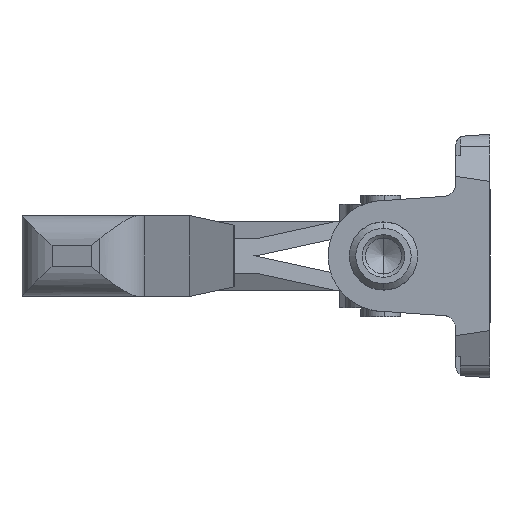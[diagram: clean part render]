
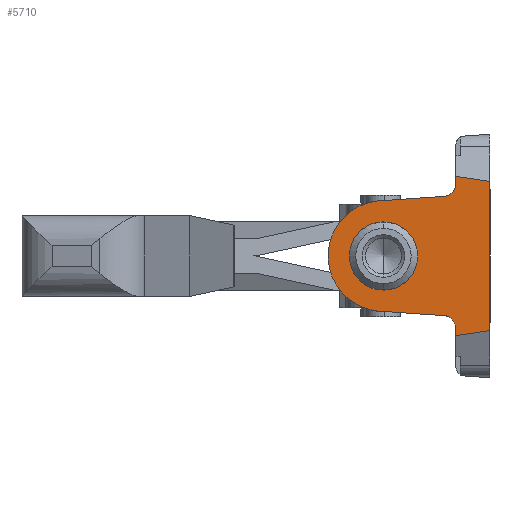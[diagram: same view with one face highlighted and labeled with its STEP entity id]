
A CAD part, left-side view. The second image highlights one B-rep face of the part: STEP entity #5710.
In plain terms, the highlighted planar face has unit normal (-0.998, 0.071, 0).
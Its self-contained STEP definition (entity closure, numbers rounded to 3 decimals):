
#135 = EDGE_CURVE ( 'NONE', #5268, #390, #4397, .T. ) ;
#164 = CARTESIAN_POINT ( 'NONE',  ( 0.568, 8., 16.986 ) ) ;
#223 = VERTEX_POINT ( 'NONE', #6784 ) ;
#348 =( BOUNDED_CURVE ( )  B_SPLINE_CURVE ( 3, ( #963, #4647, #1078, #1673 ),
 .UNSPECIFIED., .F., .T. ) 
 B_SPLINE_CURVE_WITH_KNOTS ( ( 4, 4 ),
 ( 1.571, 4.712 ),
 .UNSPECIFIED. ) 
 CURVE ( )  GEOMETRIC_REPRESENTATION_ITEM ( )  RATIONAL_B_SPLINE_CURVE ( ( 1., 0.333, 0.333, 1. ) ) 
 REPRESENTATION_ITEM ( '' )  );
#350 = CARTESIAN_POINT ( 'NONE',  ( 1.776, 25., 8. ) ) ;
#384 = EDGE_CURVE ( 'NONE', #390, #6521, #348, .T. ) ;
#390 = VERTEX_POINT ( 'NONE', #2284 ) ;
#451 = ORIENTED_EDGE ( 'NONE', *, *, #7123, .T. ) ;
#482 = CARTESIAN_POINT ( 'NONE',  ( 0.766, 10.791, 13.994 ) ) ;
#560 = VERTEX_POINT ( 'NONE', #2605 ) ;
#562 = CARTESIAN_POINT ( 'NONE',  ( 0.568, 8., -16.986 ) ) ;
#626 = DIRECTION ( 'NONE',  ( 0.07, 0.986, 0.15 ) ) ;
#687 = DIRECTION ( 'NONE',  ( -0.07, -0.986, 0.15 ) ) ;
#875 = CARTESIAN_POINT ( 'NONE',  ( 0.766, 10.791, -13.994 ) ) ;
#937 = LINE ( 'NONE', #2730, #6353 ) ;
#963 = CARTESIAN_POINT ( 'NONE',  ( 1.776, 25., 13. ) ) ;
#969 = CARTESIAN_POINT ( 'NONE',  ( 1.776, 25., -8. ) ) ;
#1078 = CARTESIAN_POINT ( 'NONE',  ( 3.622, 51., -13. ) ) ;
#1159 = EDGE_CURVE ( 'NONE', #2170, #1905, #4674, .T. ) ;
#1191 = CARTESIAN_POINT ( 'NONE',  ( 0.568, 8., -18.718 ) ) ;
#1327 = CARTESIAN_POINT ( 'NONE',  ( 0.568, 8., -18.718 ) ) ;
#1363 = CARTESIAN_POINT ( 'NONE',  ( 0.568, 8., 15.325 ) ) ;
#1419 =( BOUNDED_CURVE ( )  B_SPLINE_CURVE ( 3, ( #350, #5222, #6443, #969 ),
 .UNSPECIFIED., .F., .F. ) 
 B_SPLINE_CURVE_WITH_KNOTS ( ( 4, 4 ),
 ( 4.712, 7.854 ),
 .UNSPECIFIED. ) 
 CURVE ( )  GEOMETRIC_REPRESENTATION_ITEM ( )  RATIONAL_B_SPLINE_CURVE ( ( 1., 0.333, 0.333, 1. ) ) 
 REPRESENTATION_ITEM ( '' )  );
#1473 = CARTESIAN_POINT ( 'NONE',  ( 0.649, 9.133, 14.11 ) ) ;
#1511 = EDGE_CURVE ( 'NONE', #3900, #560, #3106, .T. ) ;
#1577 = EDGE_CURVE ( 'NONE', #3900, #5268, #2485, .T. ) ;
#1673 = CARTESIAN_POINT ( 'NONE',  ( 1.776, 25., -13. ) ) ;
#1790 = EDGE_CURVE ( 'NONE', #1905, #2170, #1419, .T. ) ;
#1814 = LINE ( 'NONE', #3047, #3031 ) ;
#1905 = VERTEX_POINT ( 'NONE', #3638 ) ;
#2058 = FACE_OUTER_BOUND ( 'NONE', #7686, .T. ) ;
#2066 = CARTESIAN_POINT ( 'NONE',  ( 0.568, 8., -15.325 ) ) ;
#2094 = CARTESIAN_POINT ( 'NONE',  ( 0., 0., 40. ) ) ;
#2170 = VERTEX_POINT ( 'NONE', #4875 ) ;
#2214 = ORIENTED_EDGE ( 'NONE', *, *, #1159, .T. ) ;
#2284 = CARTESIAN_POINT ( 'NONE',  ( 1.776, 25., 13. ) ) ;
#2295 = DIRECTION ( 'NONE',  ( -0.071, -0.995, -0.07 ) ) ;
#2411 = VECTOR ( 'NONE', #5004, 1000. ) ;
#2425 = VERTEX_POINT ( 'NONE', #2804 ) ;
#2433 = VERTEX_POINT ( 'NONE', #5179 ) ;
#2485 =( BOUNDED_CURVE ( )  B_SPLINE_CURVE ( 3, ( #164, #1363, #1473, #5685 ),
 .UNSPECIFIED., .F., .T. ) 
 B_SPLINE_CURVE_WITH_KNOTS ( ( 4, 4 ),
 ( 0., 1.501 ),
 .UNSPECIFIED. ) 
 CURVE ( )  GEOMETRIC_REPRESENTATION_ITEM ( )  RATIONAL_B_SPLINE_CURVE ( ( 1., 0.821, 0.821, 1. ) ) 
 REPRESENTATION_ITEM ( '' )  );
#2542 = VECTOR ( 'NONE', #7509, 1000. ) ;
#2605 = CARTESIAN_POINT ( 'NONE',  ( 0.568, 8., 18.718 ) ) ;
#2615 = VECTOR ( 'NONE', #6741, 1000. ) ;
#2661 = ORIENTED_EDGE ( 'NONE', *, *, #135, .T. ) ;
#2730 = CARTESIAN_POINT ( 'NONE',  ( 1.776, 25., -13. ) ) ;
#2804 = CARTESIAN_POINT ( 'NONE',  ( 0.568, 8., -16.986 ) ) ;
#3027 = LINE ( 'NONE', #1327, #7629 ) ;
#3031 = VECTOR ( 'NONE', #626, 1000. ) ;
#3047 = CARTESIAN_POINT ( 'NONE',  ( 0., 0., 17.5 ) ) ;
#3064 = EDGE_CURVE ( 'NONE', #6737, #223, #3027, .T. ) ;
#3095 = EDGE_CURVE ( 'NONE', #6737, #2425, #6780, .T. ) ;
#3106 = LINE ( 'NONE', #4320, #2615 ) ;
#3176 = DIRECTION ( 'NONE',  ( -0.997, 0.071, 0. ) ) ;
#3263 = AXIS2_PLACEMENT_3D ( 'NONE', #2094, #3176, #6964 ) ;
#3455 = EDGE_LOOP ( 'NONE', ( #7156, #2214 ) ) ;
#3525 = ORIENTED_EDGE ( 'NONE', *, *, #7587, .T. ) ;
#3570 = CARTESIAN_POINT ( 'NONE',  ( 1.776, 25., 8. ) ) ;
#3596 = VECTOR ( 'NONE', #4285, 1000. ) ;
#3638 = CARTESIAN_POINT ( 'NONE',  ( 1.776, 25., 8. ) ) ;
#3900 = VERTEX_POINT ( 'NONE', #4868 ) ;
#4285 = DIRECTION ( 'NONE',  ( 0.071, 0.995, -0.07 ) ) ;
#4320 = CARTESIAN_POINT ( 'NONE',  ( 0.568, 8., 26.145 ) ) ;
#4387 = ORIENTED_EDGE ( 'NONE', *, *, #3064, .T. ) ;
#4397 = LINE ( 'NONE', #7354, #3596 ) ;
#4647 = CARTESIAN_POINT ( 'NONE',  ( 3.622, 51., 13. ) ) ;
#4674 =( BOUNDED_CURVE ( )  B_SPLINE_CURVE ( 3, ( #7383, #6687, #7254, #3570 ),
 .UNSPECIFIED., .F., .F. ) 
 B_SPLINE_CURVE_WITH_KNOTS ( ( 4, 4 ),
 ( 1.571, 4.712 ),
 .UNSPECIFIED. ) 
 CURVE ( )  GEOMETRIC_REPRESENTATION_ITEM ( )  RATIONAL_B_SPLINE_CURVE ( ( 1., 0.333, 0.333, 1. ) ) 
 REPRESENTATION_ITEM ( '' )  );
#4868 = CARTESIAN_POINT ( 'NONE',  ( 0.568, 8., 16.986 ) ) ;
#4875 = CARTESIAN_POINT ( 'NONE',  ( 1.776, 25., -8. ) ) ;
#5004 = DIRECTION ( 'NONE',  ( 0., 0., 1. ) ) ;
#5179 = CARTESIAN_POINT ( 'NONE',  ( 0., 0., 17.5 ) ) ;
#5206 = CARTESIAN_POINT ( 'NONE',  ( 1.776, 25., -13. ) ) ;
#5222 = CARTESIAN_POINT ( 'NONE',  ( 0.639, 9., 8. ) ) ;
#5268 = VERTEX_POINT ( 'NONE', #482 ) ;
#5466 = EDGE_CURVE ( 'NONE', #7295, #2425, #7175, .T. ) ;
#5479 = ORIENTED_EDGE ( 'NONE', *, *, #1511, .F. ) ;
#5685 = CARTESIAN_POINT ( 'NONE',  ( 0.766, 10.791, 13.994 ) ) ;
#5710 = ADVANCED_FACE ( 'NONE', ( #2058, #6293 ), #7549, .T. ) ;
#5719 = CARTESIAN_POINT ( 'NONE',  ( 0.568, 8., -16.986 ) ) ;
#5760 = CARTESIAN_POINT ( 'NONE',  ( 0.649, 9.133, -14.11 ) ) ;
#6096 = ORIENTED_EDGE ( 'NONE', *, *, #7206, .T. ) ;
#6247 = ORIENTED_EDGE ( 'NONE', *, *, #5466, .T. ) ;
#6293 = FACE_BOUND ( 'NONE', #3455, .T. ) ;
#6353 = VECTOR ( 'NONE', #2295, 1000. ) ;
#6443 = CARTESIAN_POINT ( 'NONE',  ( 0.639, 9., -8. ) ) ;
#6521 = VERTEX_POINT ( 'NONE', #5206 ) ;
#6540 = ORIENTED_EDGE ( 'NONE', *, *, #1577, .T. ) ;
#6678 = CARTESIAN_POINT ( 'NONE',  ( 0.766, 10.791, -13.994 ) ) ;
#6687 = CARTESIAN_POINT ( 'NONE',  ( 2.912, 41., -8. ) ) ;
#6737 = VERTEX_POINT ( 'NONE', #1191 ) ;
#6741 = DIRECTION ( 'NONE',  ( 0., 0., 1. ) ) ;
#6780 = LINE ( 'NONE', #562, #2411 ) ;
#6784 = CARTESIAN_POINT ( 'NONE',  ( 0., 0., -17.5 ) ) ;
#6964 = DIRECTION ( 'NONE',  ( -0.071, -0.997, 0. ) ) ;
#6989 = LINE ( 'NONE', #7576, #2542 ) ;
#7086 = ORIENTED_EDGE ( 'NONE', *, *, #3095, .F. ) ;
#7123 = EDGE_CURVE ( 'NONE', #6521, #7295, #937, .T. ) ;
#7156 = ORIENTED_EDGE ( 'NONE', *, *, #1790, .T. ) ;
#7175 =( BOUNDED_CURVE ( )  B_SPLINE_CURVE ( 3, ( #875, #5760, #2066, #5719 ),
 .UNSPECIFIED., .F., .F. ) 
 B_SPLINE_CURVE_WITH_KNOTS ( ( 4, 4 ),
 ( 4.782, 6.283 ),
 .UNSPECIFIED. ) 
 CURVE ( )  GEOMETRIC_REPRESENTATION_ITEM ( )  RATIONAL_B_SPLINE_CURVE ( ( 1., 0.821, 0.821, 1. ) ) 
 REPRESENTATION_ITEM ( '' )  );
#7206 = EDGE_CURVE ( 'NONE', #2433, #560, #1814, .T. ) ;
#7254 = CARTESIAN_POINT ( 'NONE',  ( 2.912, 41., 8. ) ) ;
#7295 = VERTEX_POINT ( 'NONE', #6678 ) ;
#7354 = CARTESIAN_POINT ( 'NONE',  ( 0.766, 10.791, 13.994 ) ) ;
#7383 = CARTESIAN_POINT ( 'NONE',  ( 1.776, 25., -8. ) ) ;
#7509 = DIRECTION ( 'NONE',  ( 0., 0., 1. ) ) ;
#7549 = PLANE ( 'NONE',  #3263 ) ;
#7576 = CARTESIAN_POINT ( 'NONE',  ( 0., 0., 23.5 ) ) ;
#7587 = EDGE_CURVE ( 'NONE', #223, #2433, #6989, .T. ) ;
#7629 = VECTOR ( 'NONE', #687, 1000. ) ;
#7686 = EDGE_LOOP ( 'NONE', ( #6247, #7086, #4387, #3525, #6096, #5479, #6540, #2661, #7880, #451 ) ) ;
#7880 = ORIENTED_EDGE ( 'NONE', *, *, #384, .T. ) ;
